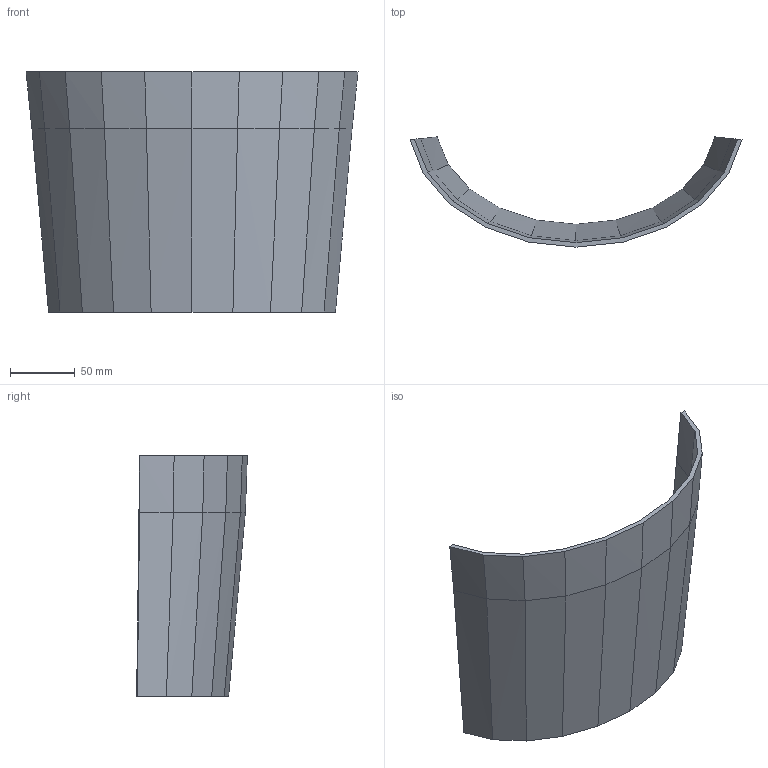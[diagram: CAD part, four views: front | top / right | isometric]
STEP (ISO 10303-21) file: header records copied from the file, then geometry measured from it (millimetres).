
FILE_DESCRIPTION(('Open CASCADE Model'),'2;1');
FILE_NAME('Open CASCADE Shape Model','2026-09-19T23:46:41',('Author'),( 'Open CASCADE'),'Open CASCADE STEP processor 7.9','Open CASCADE 7.9' ,'Unknown');
FILE_SCHEMA(('AUTOMOTIVE_DESIGN { 1 0 10303 214 1 1 1 1 }'));
Length unit declared in the file: millimetre
Products named in the file (1): Open CASCADE STEP translator 7.9 99
Bounding box: 256.77 x 85.62 x 186 mm (x, y, z)
Volume: 193245.2 mm3; surface area: 115990 mm2
Topology: 1 solids, 1 shells, 46 faces, 110 edges, 66 vertices
Faces by surface type: bspline 44, plane 2
Entity records: 2568 total; most frequent: CARTESIAN_POINT 725, ORIENTED_EDGE 220, PCURVE 220, DEFINITIONAL_REPRESENTATION 220, DIRECTION 186, LINE 180, VECTOR 180, B_SPLINE_CURVE_WITH_KNOTS 150
